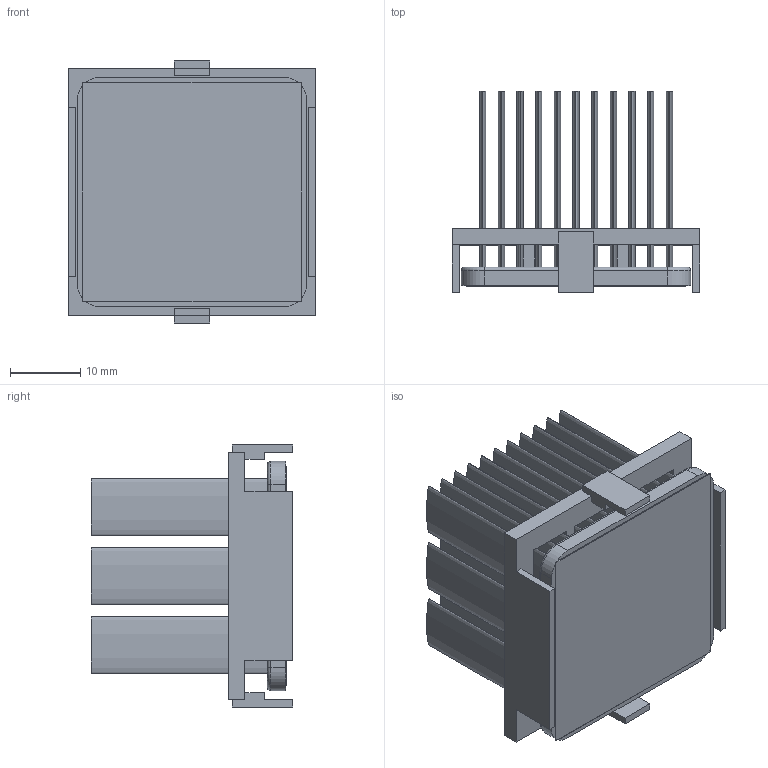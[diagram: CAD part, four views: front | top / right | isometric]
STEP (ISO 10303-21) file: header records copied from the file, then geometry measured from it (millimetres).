
FILE_DESCRIPTION (( 'STEP AP214' ), '1' );
FILE_NAME ('INM33001-28W-2.6O.STEP', '2023-02-22T19:34:02', ( '' ), ( '' ), 'SwSTEP 2.0', 'SolidWorks 2020', '' );
FILE_SCHEMA (( 'AUTOMOTIVE_DESIGN' ));
Length unit declared in the file: millimetre
Products named in the file (1): INM33001-28W-2.6O
Bounding box: 35.2 x 28.6 x 37.2 mm (x, y, z)
Volume: 9646 mm3; surface area: 20491.1 mm2
Topology: 3 solids, 3 shells, 181 faces, 418 edges, 276 vertices
Faces by surface type: plane 103, bspline 66, cylinder 8, torus 4
Entity records: 7273 total; most frequent: CARTESIAN_POINT 1734, ORIENTED_EDGE 836, DIRECTION 538, EDGE_CURVE 418, VERTEX_POINT 276, VECTOR 266, LINE 266, EDGE_LOOP 216
